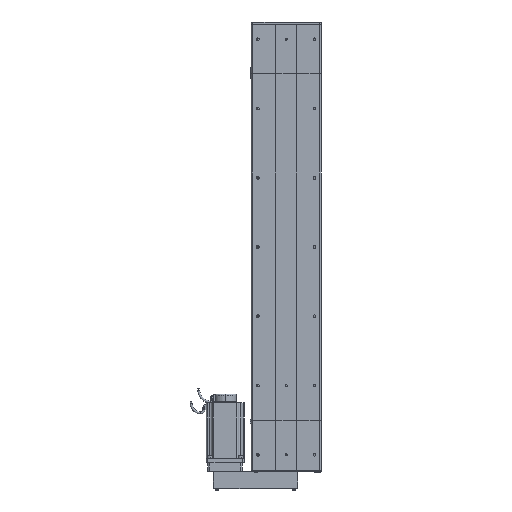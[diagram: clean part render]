
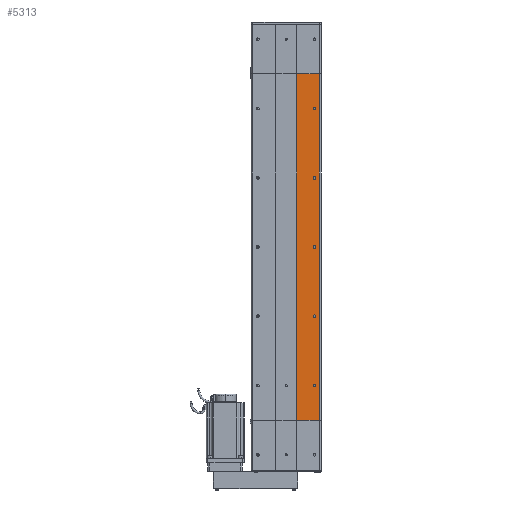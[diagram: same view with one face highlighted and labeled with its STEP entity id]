
A CAD part, front view. The second image highlights one B-rep face of the part: STEP entity #5313.
In plain terms, the highlighted planar face has unit normal (0, -1, 0).
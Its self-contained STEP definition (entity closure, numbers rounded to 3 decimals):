
#5104 = EDGE_CURVE ( 'NONE', #60143, #60212, #14679, .T. ) ;
#5110 = ORIENTED_EDGE ( 'NONE', *, *, #5104, .F. ) ;
#5119 = EDGE_CURVE ( 'NONE', #60276, #60156, #14783, .T. ) ;
#5309 = EDGE_LOOP ( 'NONE', ( #5317, #5319 ) ) ;
#5311 = EDGE_LOOP ( 'NONE', ( #5314, #5497 ) ) ;
#5312 = VERTEX_POINT ( 'NONE', #15295 ) ;
#5313 = ADVANCED_FACE ( 'NONE', ( #15312, #15294, #15322, #15355, #15319, #15317 ), #15303, .F. ) ;
#5314 = ORIENTED_EDGE ( 'NONE', *, *, #5119, .F. ) ;
#5317 = ORIENTED_EDGE ( 'NONE', *, *, #5498, .F. ) ;
#5318 = ORIENTED_EDGE ( 'NONE', *, *, #60116, .F. ) ;
#5319 = ORIENTED_EDGE ( 'NONE', *, *, #60385, .F. ) ;
#5401 = ORIENTED_EDGE ( 'NONE', *, *, #60616, .F. ) ;
#5402 = EDGE_CURVE ( 'NONE', #5312, #5419, #15645, .T. ) ;
#5405 = ORIENTED_EDGE ( 'NONE', *, *, #5424, .F. ) ;
#5406 = ORIENTED_EDGE ( 'NONE', *, *, #5417, .F. ) ;
#5409 = EDGE_CURVE ( 'NONE', #57384, #57432, #15439, .T. ) ;
#5416 = ORIENTED_EDGE ( 'NONE', *, *, #5418, .T. ) ;
#5417 = EDGE_CURVE ( 'NONE', #5420, #5422, #15438, .T. ) ;
#5418 = EDGE_CURVE ( 'NONE', #5312, #5422, #15615, .T. ) ;
#5419 = VERTEX_POINT ( 'NONE', #15547 ) ;
#5420 = VERTEX_POINT ( 'NONE', #15546 ) ;
#5422 = VERTEX_POINT ( 'NONE', #15538 ) ;
#5423 = ORIENTED_EDGE ( 'NONE', *, *, #57408, .F. ) ;
#5424 = EDGE_CURVE ( 'NONE', #5419, #5420, #15532, .T. ) ;
#5425 = ORIENTED_EDGE ( 'NONE', *, *, #5402, .F. ) ;
#5491 = EDGE_LOOP ( 'NONE', ( #5110, #5318 ) ) ;
#5494 = EDGE_LOOP ( 'NONE', ( #5496, #5401 ) ) ;
#5496 = ORIENTED_EDGE ( 'NONE', *, *, #5500, .F. ) ;
#5497 = ORIENTED_EDGE ( 'NONE', *, *, #60270, .F. ) ;
#5498 = EDGE_CURVE ( 'NONE', #60383, #60479, #15815, .T. ) ;
#5500 = EDGE_CURVE ( 'NONE', #60614, #60612, #15826, .T. ) ;
#5502 = EDGE_LOOP ( 'NONE', ( #5503, #5423 ) ) ;
#5503 = ORIENTED_EDGE ( 'NONE', *, *, #5409, .F. ) ;
#5505 = EDGE_LOOP ( 'NONE', ( #5405, #5425, #5416, #5406 ) ) ;
#14663 = DIRECTION ( 'NONE',  ( 1., 0., 0. ) ) ;
#14679 = CIRCLE ( 'NONE', #14719, 4. ) ;
#14713 = DIRECTION ( 'NONE',  ( 0., -1., 0. ) ) ;
#14718 = CARTESIAN_POINT ( 'NONE',  ( 82., -34.5, 900. ) ) ;
#14719 = AXIS2_PLACEMENT_3D ( 'NONE', #14718, #14713, #14663 ) ;
#14757 = AXIS2_PLACEMENT_3D ( 'NONE', #14777, #14776, #14775 ) ;
#14775 = DIRECTION ( 'NONE',  ( 1., 0., 0. ) ) ;
#14776 = DIRECTION ( 'NONE',  ( 0., -1., 0. ) ) ;
#14777 = CARTESIAN_POINT ( 'NONE',  ( 82., -34.5, 700. ) ) ;
#14783 = CIRCLE ( 'NONE', #14757, 4. ) ;
#15292 = AXIS2_PLACEMENT_3D ( 'NONE', #15416, #15415, #15414 ) ;
#15294 = FACE_BOUND ( 'NONE', #5311, .T. ) ;
#15295 = CARTESIAN_POINT ( 'NONE',  ( 30., -34.5, 0. ) ) ;
#15303 = PLANE ( 'NONE',  #15292 ) ;
#15312 = FACE_BOUND ( 'NONE', #5491, .T. ) ;
#15317 = FACE_OUTER_BOUND ( 'NONE', #5505, .T. ) ;
#15319 = FACE_BOUND ( 'NONE', #5502, .T. ) ;
#15322 = FACE_BOUND ( 'NONE', #5309, .T. ) ;
#15355 = FACE_BOUND ( 'NONE', #5494, .T. ) ;
#15414 = DIRECTION ( 'NONE',  ( -1., 0., 0. ) ) ;
#15415 = DIRECTION ( 'NONE',  ( 0., 1., 0. ) ) ;
#15416 = CARTESIAN_POINT ( 'NONE',  ( -96., -34.5, 1000. ) ) ;
#15433 = DIRECTION ( 'NONE',  ( 0., 0., 1. ) ) ;
#15434 = VECTOR ( 'NONE', #15433, 1000. ) ;
#15437 = CARTESIAN_POINT ( 'NONE',  ( 96., -34.5, 1000. ) ) ;
#15438 = LINE ( 'NONE', #15437, #15617 ) ;
#15439 = CIRCLE ( 'NONE', #15551, 4. ) ;
#15527 = DIRECTION ( 'NONE',  ( 1., 0., 0. ) ) ;
#15528 = VECTOR ( 'NONE', #15527, 1000. ) ;
#15529 = CARTESIAN_POINT ( 'NONE',  ( -96., -34.5, 1000. ) ) ;
#15532 = LINE ( 'NONE', #15529, #15528 ) ;
#15538 = CARTESIAN_POINT ( 'NONE',  ( 96., -34.5, 0. ) ) ;
#15539 = CARTESIAN_POINT ( 'NONE',  ( 82., -34.5, 100. ) ) ;
#15546 = CARTESIAN_POINT ( 'NONE',  ( 96., -34.5, 1000. ) ) ;
#15547 = CARTESIAN_POINT ( 'NONE',  ( 30., -34.5, 1000. ) ) ;
#15549 = DIRECTION ( 'NONE',  ( 1., 0., 0. ) ) ;
#15550 = DIRECTION ( 'NONE',  ( 0., -1., 0. ) ) ;
#15551 = AXIS2_PLACEMENT_3D ( 'NONE', #15539, #15550, #15549 ) ;
#15612 = DIRECTION ( 'NONE',  ( 1., 0., 0. ) ) ;
#15613 = VECTOR ( 'NONE', #15612, 1000. ) ;
#15614 = CARTESIAN_POINT ( 'NONE',  ( -96., -34.5, 0. ) ) ;
#15615 = LINE ( 'NONE', #15614, #15613 ) ;
#15616 = DIRECTION ( 'NONE',  ( 0., 0., -1. ) ) ;
#15617 = VECTOR ( 'NONE', #15616, 1000. ) ;
#15644 = CARTESIAN_POINT ( 'NONE',  ( 30., -34.5, 0. ) ) ;
#15645 = LINE ( 'NONE', #15644, #15434 ) ;
#15657 = AXIS2_PLACEMENT_3D ( 'NONE', #15823, #15811, #15808 ) ;
#15802 = DIRECTION ( 'NONE',  ( 1., 0., 0. ) ) ;
#15803 = DIRECTION ( 'NONE',  ( 0., -1., 0. ) ) ;
#15807 = CARTESIAN_POINT ( 'NONE',  ( 82., -34.5, 300. ) ) ;
#15808 = DIRECTION ( 'NONE',  ( 1., 0., 0. ) ) ;
#15811 = DIRECTION ( 'NONE',  ( 0., -1., 0. ) ) ;
#15815 = CIRCLE ( 'NONE', #15657, 4. ) ;
#15821 = AXIS2_PLACEMENT_3D ( 'NONE', #15807, #15803, #15802 ) ;
#15823 = CARTESIAN_POINT ( 'NONE',  ( 82., -34.5, 500. ) ) ;
#15826 = CIRCLE ( 'NONE', #15821, 4. ) ;
#42534 = CIRCLE ( 'NONE', #42569, 4. ) ;
#42535 = CARTESIAN_POINT ( 'NONE',  ( 82., -34.5, 100. ) ) ;
#42545 = CARTESIAN_POINT ( 'NONE',  ( 78., -34.5, 100. ) ) ;
#42567 = DIRECTION ( 'NONE',  ( 1., 0., 0. ) ) ;
#42568 = DIRECTION ( 'NONE',  ( 0., -1., 0. ) ) ;
#42569 = AXIS2_PLACEMENT_3D ( 'NONE', #42535, #42568, #42567 ) ;
#42592 = CARTESIAN_POINT ( 'NONE',  ( 86., -34.5, 100. ) ) ;
#42918 = CARTESIAN_POINT ( 'NONE',  ( 86., -34.5, 900. ) ) ;
#43324 = CARTESIAN_POINT ( 'NONE',  ( 78., -34.5, 700. ) ) ;
#43567 = DIRECTION ( 'NONE',  ( 0., -1., 0. ) ) ;
#43570 = AXIS2_PLACEMENT_3D ( 'NONE', #43667, #43567, #43659 ) ;
#43659 = DIRECTION ( 'NONE',  ( 1., 0., 0. ) ) ;
#43667 = CARTESIAN_POINT ( 'NONE',  ( 82., -34.5, 900. ) ) ;
#43693 = CIRCLE ( 'NONE', #43570, 4. ) ;
#43752 = CARTESIAN_POINT ( 'NONE',  ( 86., -34.5, 700. ) ) ;
#43756 = CIRCLE ( 'NONE', #43786, 4. ) ;
#43786 = AXIS2_PLACEMENT_3D ( 'NONE', #43847, #43846, #43844 ) ;
#43844 = DIRECTION ( 'NONE',  ( 1., 0., 0. ) ) ;
#43846 = DIRECTION ( 'NONE',  ( 0., -1., 0. ) ) ;
#43847 = CARTESIAN_POINT ( 'NONE',  ( 82., -34.5, 700. ) ) ;
#44005 = CARTESIAN_POINT ( 'NONE',  ( 78., -34.5, 900. ) ) ;
#44040 = AXIS2_PLACEMENT_3D ( 'NONE', #44231, #44230, #44229 ) ;
#44131 = CIRCLE ( 'NONE', #44040, 4. ) ;
#44186 = CARTESIAN_POINT ( 'NONE',  ( 86., -34.5, 500. ) ) ;
#44229 = DIRECTION ( 'NONE',  ( 1., 0., 0. ) ) ;
#44230 = DIRECTION ( 'NONE',  ( 0., -1., 0. ) ) ;
#44231 = CARTESIAN_POINT ( 'NONE',  ( 82., -34.5, 500. ) ) ;
#44418 = CARTESIAN_POINT ( 'NONE',  ( 78., -34.5, 500. ) ) ;
#44549 = CARTESIAN_POINT ( 'NONE',  ( 78., -34.5, 300. ) ) ;
#44570 = DIRECTION ( 'NONE',  ( 1., 0., 0. ) ) ;
#44571 = DIRECTION ( 'NONE',  ( 0., -1., 0. ) ) ;
#44574 = CARTESIAN_POINT ( 'NONE',  ( 82., -34.5, 300. ) ) ;
#44575 = AXIS2_PLACEMENT_3D ( 'NONE', #44574, #44571, #44570 ) ;
#44577 = CIRCLE ( 'NONE', #44575, 4. ) ;
#44582 = CARTESIAN_POINT ( 'NONE',  ( 86., -34.5, 300. ) ) ;
#57384 = VERTEX_POINT ( 'NONE', #42592 ) ;
#57408 = EDGE_CURVE ( 'NONE', #57432, #57384, #42534, .T. ) ;
#57432 = VERTEX_POINT ( 'NONE', #42545 ) ;
#60116 = EDGE_CURVE ( 'NONE', #60212, #60143, #43693, .T. ) ;
#60143 = VERTEX_POINT ( 'NONE', #42918 ) ;
#60156 = VERTEX_POINT ( 'NONE', #43324 ) ;
#60212 = VERTEX_POINT ( 'NONE', #44005 ) ;
#60270 = EDGE_CURVE ( 'NONE', #60156, #60276, #43756, .T. ) ;
#60276 = VERTEX_POINT ( 'NONE', #43752 ) ;
#60383 = VERTEX_POINT ( 'NONE', #44186 ) ;
#60385 = EDGE_CURVE ( 'NONE', #60479, #60383, #44131, .T. ) ;
#60479 = VERTEX_POINT ( 'NONE', #44418 ) ;
#60612 = VERTEX_POINT ( 'NONE', #44549 ) ;
#60614 = VERTEX_POINT ( 'NONE', #44582 ) ;
#60616 = EDGE_CURVE ( 'NONE', #60612, #60614, #44577, .T. ) ;
